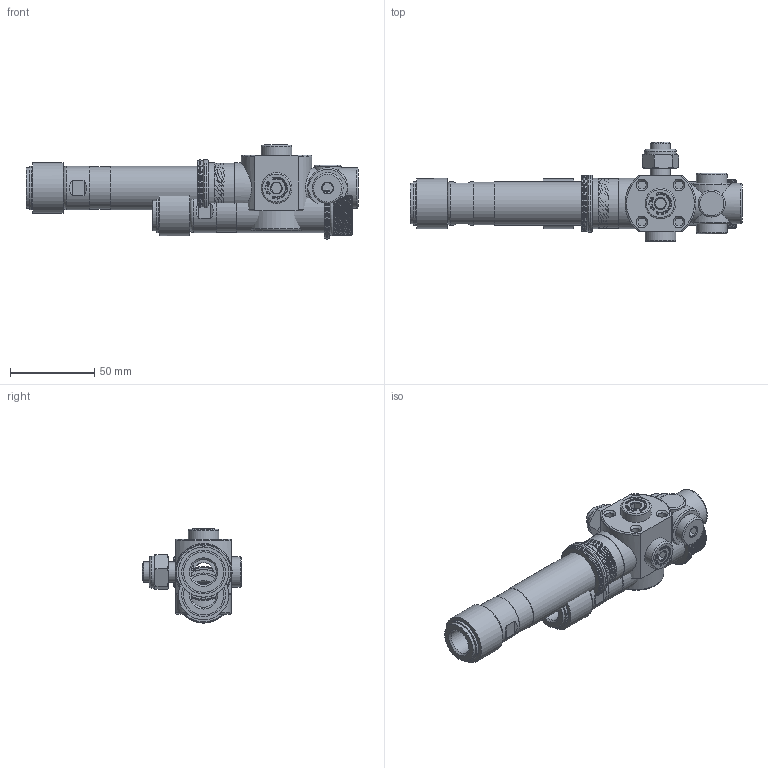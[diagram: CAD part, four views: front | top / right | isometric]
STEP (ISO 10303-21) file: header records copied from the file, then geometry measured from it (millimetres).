
FILE_DESCRIPTION( ( 'Unknown' ), '1' );
FILE_NAME( 'C:/Documents and Settings/Owner/官帕 拳搁/1/VSM 303P-12F-MR12.stp', 'Unknown', ( 'Unknown' ), ( 'Unknown' ), 'PSStep 10.0', 'Unknown', ' ' );
FILE_SCHEMA( ( 'AUTOMOTIVE_DESIGN { 1 0 10303 214 1 1 1 1 }' ) );
Length unit declared in the file: millimetre
Products named in the file (8): Assem1; 303P; speeder moudle_20130528_0; Plug14_New_PPS_0; VC303P; Screw nut(M12); Nylon nut(M12); Plug14_New_PPS
Bounding box: 197.4 x 59.2 x 56.07 mm (x, y, z)
Surface area: 138272.5 mm2 (no closed solid volume)
Topology: 0 solids, 1278 shells, 1287 faces, 5588 edges, 5279 vertices
Faces by surface type: plane 717, cylinder 194, cone 123, torus 92, extrusion 81, bspline 66, revolution 14
Full cylindrical faces by diameter (mm): 4.917 x12, 10.4 x2, 11.445 x18, 11.835 x3, 11.9 x2, 12 x2, 13 x2, 13.2 x2, 14.95 x3, 15.4 x3, 15.9 x2, 16 x3, 16.5 x9, 17 x3, 18.2 x9, 18.631 x3, 19 x2, 22.835 x3, 24 x9, 25 x3, 25.2 x3, 25.3 x3, 25.9 x6, 26 x3, 27.867 x6, 29.6 x3, 30 x6, 32.834 x6, 33 x3, 33.747 x3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
Entity records: 33792 total; most frequent: CARTESIAN_POINT 16790, DIRECTION 2476, ORIENTED_EDGE 1766, EDGE_CURVE 1766, VERTEX_POINT 1766, VECTOR 1041, LINE 1014, AXIS2_PLACEMENT_3D 714
